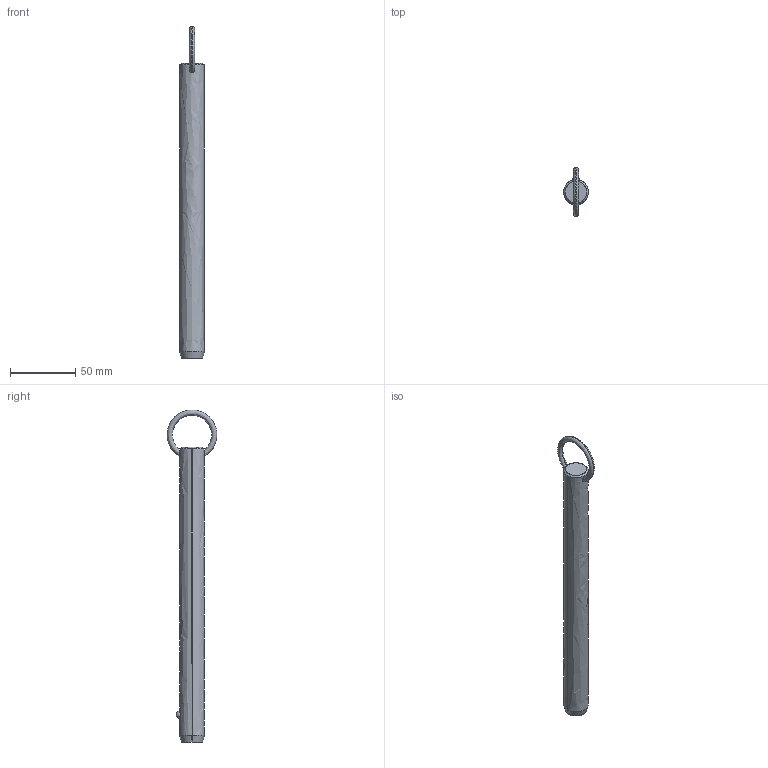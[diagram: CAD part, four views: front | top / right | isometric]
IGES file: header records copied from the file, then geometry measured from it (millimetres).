
Start section: SolidWorks IGES file using analytic representation for surfaces
Global section: file name: C:\Users\liam_\OneDrive\Documents\WORK\Work for WixRoyd\Job Files\J-00019 - Matt Davis CAD Checking\04. CAD Drawings\automotion20190605\P1250.2_v2\P1250.2_v2_20190729_IGES\P1250.075-760.igs; native system: SolidWorks 2017; preprocessor: SolidWorks 2017; author: liam_; date: 190730.000244; units: millimetre
Bounding box: 19 x 38.08 x 254.8 mm (x, y, z)
Surface area: 15034.7 mm2 (no closed solid volume)
Topology: 0 solids, 0 shells, 12 faces, 294 edges, 292 vertices
Faces by surface type: revolution 8, bspline 4
